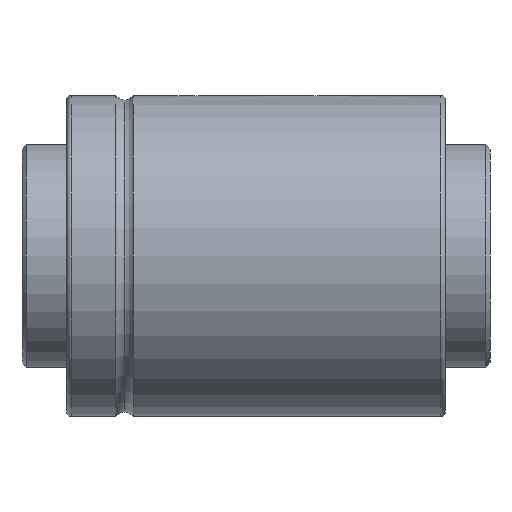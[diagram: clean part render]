
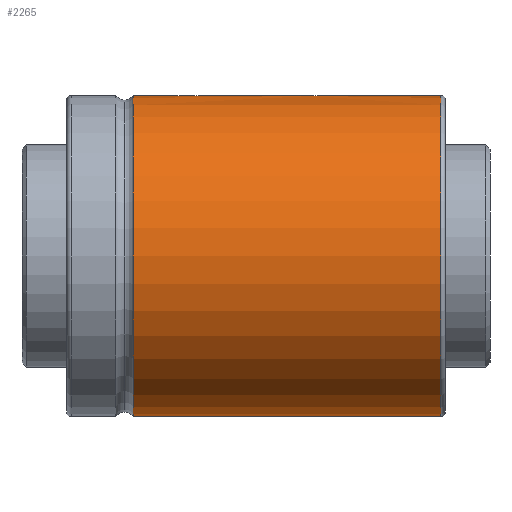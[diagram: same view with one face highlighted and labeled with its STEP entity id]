
A CAD part, front view. The second image highlights one B-rep face of the part: STEP entity #2265.
In plain terms, the highlighted cylindrical face has radius 36 mm (diameter 72 mm), a partial arc.
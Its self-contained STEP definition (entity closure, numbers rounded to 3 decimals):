
#18 = CARTESIAN_POINT ( 'NONE',  ( 56.884, -1.652, 35.962 ) ) ;
#75 = ORIENTED_EDGE ( 'NONE', *, *, #352, .T. ) ;
#110 = EDGE_CURVE ( 'NONE', #2802, #3132, #1517, .T. ) ;
#119 = CARTESIAN_POINT ( 'NONE',  ( 85., -2.5, 35.913 ) ) ;
#153 = EDGE_CURVE ( 'NONE', #3159, #1650, #928, .T. ) ;
#209 = CARTESIAN_POINT ( 'NONE',  ( 84., 0., -36. ) ) ;
#212 = CARTESIAN_POINT ( 'NONE',  ( 28.892, -2.247, 35.93 ) ) ;
#224 = CARTESIAN_POINT ( 'NONE',  ( 27.5, 0., 36. ) ) ;
#268 = CARTESIAN_POINT ( 'NONE',  ( 56.653, -1.882, 35.951 ) ) ;
#279 = CARTESIAN_POINT ( 'NONE',  ( 57.17, -1.252, 35.978 ) ) ;
#302 = CARTESIAN_POINT ( 'NONE',  ( 57.5, -0.165, 36. ) ) ;
#352 = EDGE_CURVE ( 'NONE', #1650, #1240, #546, .T. ) ;
#359 = VECTOR ( 'NONE', #3170, 1000. ) ;
#383 = DIRECTION ( 'NONE',  ( 0., 0., -1. ) ) ;
#471 = FACE_OUTER_BOUND ( 'NONE', #1624, .T. ) ;
#473 = CARTESIAN_POINT ( 'NONE',  ( 30., -2.5, 35.913 ) ) ;
#546 = LINE ( 'NONE', #2817, #2255 ) ;
#566 = CARTESIAN_POINT ( 'NONE',  ( 15., 0., 36. ) ) ;
#568 = DIRECTION ( 'NONE',  ( -1., 0., 0. ) ) ;
#617 = ORIENTED_EDGE ( 'NONE', *, *, #110, .T. ) ;
#670 = CYLINDRICAL_SURFACE ( 'NONE', #2715, 36. ) ;
#684 = CARTESIAN_POINT ( 'NONE',  ( 84., 0., 0. ) ) ;
#722 = CARTESIAN_POINT ( 'NONE',  ( 30., -2.5, 35.913 ) ) ;
#747 = CARTESIAN_POINT ( 'NONE',  ( 29.194, -2.372, 35.922 ) ) ;
#756 = CARTESIAN_POINT ( 'NONE',  ( 27.5, -0.33, 36. ) ) ;
#817 = DIRECTION ( 'NONE',  ( -1., 0., 0. ) ) ;
#829 = CARTESIAN_POINT ( 'NONE',  ( 57.247, -1.108, 35.983 ) ) ;
#927 = DIRECTION ( 'NONE',  ( -1., 0., 0. ) ) ;
#928 = CIRCLE ( 'NONE', #3174, 36. ) ;
#1018 = CARTESIAN_POINT ( 'NONE',  ( 28.118, -1.653, 35.962 ) ) ;
#1040 = CARTESIAN_POINT ( 'NONE',  ( 27.754, -1.109, 35.983 ) ) ;
#1048 = CARTESIAN_POINT ( 'NONE',  ( 85., 0., 36. ) ) ;
#1075 = CARTESIAN_POINT ( 'NONE',  ( 57.5, 0., 36. ) ) ;
#1164 = DIRECTION ( 'NONE',  ( 1., 0., 0. ) ) ;
#1240 = VERTEX_POINT ( 'NONE', #2105 ) ;
#1259 = DIRECTION ( 'NONE',  ( 0., 0., 1. ) ) ;
#1277 = DIRECTION ( 'NONE',  ( -1., 0., 0. ) ) ;
#1281 = CARTESIAN_POINT ( 'NONE',  ( 28.014, -1.528, 35.968 ) ) ;
#1282 = DIRECTION ( 'NONE',  ( 0., 0., 1. ) ) ;
#1292 = CARTESIAN_POINT ( 'NONE',  ( 28.477, -1.989, 35.945 ) ) ;
#1303 = EDGE_CURVE ( 'NONE', #3159, #2144, #2598, .T. ) ;
#1317 = CARTESIAN_POINT ( 'NONE',  ( 56.255, -2.169, 35.935 ) ) ;
#1319 = VECTOR ( 'NONE', #817, 1000. ) ;
#1325 = CARTESIAN_POINT ( 'NONE',  ( 55.33, -2.5, 35.913 ) ) ;
#1384 = B_SPLINE_CURVE_WITH_KNOTS ( 'NONE', 3,
 ( #1075, #302, #2363, #1859, #1566, #829, #279, #2608, #18, #268, #2332, #1317, #2086, #2342, #1325, #1579 ),
 .UNSPECIFIED., .F., .F.,
 ( 4, 2, 2, 2, 2, 2, 2, 4 ),
 ( 0.004, 0.004, 0.005, 0.005, 0.006, 0.006, 0.007, 0.008 ),
 .UNSPECIFIED. ) ;
#1388 = ORIENTED_EDGE ( 'NONE', *, *, #2933, .T. ) ;
#1439 = CARTESIAN_POINT ( 'NONE',  ( 27.5, 0., 36. ) ) ;
#1510 = CIRCLE ( 'NONE', #2405, 36. ) ;
#1517 = LINE ( 'NONE', #119, #359 ) ;
#1540 = CARTESIAN_POINT ( 'NONE',  ( 27.566, -0.658, 35.995 ) ) ;
#1552 = LINE ( 'NONE', #1048, #1319 ) ;
#1566 = CARTESIAN_POINT ( 'NONE',  ( 57.372, -0.806, 35.991 ) ) ;
#1579 = CARTESIAN_POINT ( 'NONE',  ( 55., -2.5, 35.913 ) ) ;
#1596 = CARTESIAN_POINT ( 'NONE',  ( 15., 0., -36. ) ) ;
#1624 = EDGE_LOOP ( 'NONE', ( #2561, #3250, #75, #1388, #617, #1909, #2138, #1812 ) ) ;
#1650 = VERTEX_POINT ( 'NONE', #1798 ) ;
#1751 = VERTEX_POINT ( 'NONE', #566 ) ;
#1794 = CARTESIAN_POINT ( 'NONE',  ( 29.353, -2.42, 35.919 ) ) ;
#1798 = CARTESIAN_POINT ( 'NONE',  ( 84., 0., 36. ) ) ;
#1812 = ORIENTED_EDGE ( 'NONE', *, *, #1923, .T. ) ;
#1859 = CARTESIAN_POINT ( 'NONE',  ( 57.42, -0.647, 35.995 ) ) ;
#1909 = ORIENTED_EDGE ( 'NONE', *, *, #2807, .T. ) ;
#1923 = EDGE_CURVE ( 'NONE', #1751, #2144, #1510, .T. ) ;
#2013 = CARTESIAN_POINT ( 'NONE',  ( 85., 0., 0. ) ) ;
#2039 = CARTESIAN_POINT ( 'NONE',  ( 29.835, -2.5, 35.913 ) ) ;
#2086 = CARTESIAN_POINT ( 'NONE',  ( 56.109, -2.246, 35.93 ) ) ;
#2105 = CARTESIAN_POINT ( 'NONE',  ( 57.5, 0., 36. ) ) ;
#2138 = ORIENTED_EDGE ( 'NONE', *, *, #2913, .T. ) ;
#2144 = VERTEX_POINT ( 'NONE', #1596 ) ;
#2255 = VECTOR ( 'NONE', #1277, 1000. ) ;
#2265 = ADVANCED_FACE ( 'NONE', ( #471 ), #670, .T. ) ;
#2294 = CARTESIAN_POINT ( 'NONE',  ( 27.831, -1.255, 35.978 ) ) ;
#2332 = CARTESIAN_POINT ( 'NONE',  ( 56.528, -1.986, 35.945 ) ) ;
#2342 = CARTESIAN_POINT ( 'NONE',  ( 55.658, -2.434, 35.918 ) ) ;
#2363 = CARTESIAN_POINT ( 'NONE',  ( 57.484, -0.327, 35.999 ) ) ;
#2405 = AXIS2_PLACEMENT_3D ( 'NONE', #2676, #1164, #1282 ) ;
#2517 = DIRECTION ( 'NONE',  ( -1., 0., 0. ) ) ;
#2526 = CARTESIAN_POINT ( 'NONE',  ( 28.748, -2.17, 35.935 ) ) ;
#2561 = ORIENTED_EDGE ( 'NONE', *, *, #1303, .F. ) ;
#2598 = LINE ( 'NONE', #2885, #2716 ) ;
#2608 = CARTESIAN_POINT ( 'NONE',  ( 56.989, -1.523, 35.968 ) ) ;
#2676 = CARTESIAN_POINT ( 'NONE',  ( 15., 0., 0. ) ) ;
#2710 = B_SPLINE_CURVE_WITH_KNOTS ( 'NONE', 3,
 ( #473, #2039, #3019, #1794, #747, #212, #2526, #1292, #3056, #1018, #1281, #2294, #1040, #1540, #756, #224 ),
 .UNSPECIFIED., .F., .F.,
 ( 4, 2, 2, 2, 2, 2, 2, 4 ),
 ( -0.004, -0.003, -0.003, -0.002, -0.002, -0.001, -0.001, 0. ),
 .UNSPECIFIED. ) ;
#2715 = AXIS2_PLACEMENT_3D ( 'NONE', #2013, #2517, #1259 ) ;
#2716 = VECTOR ( 'NONE', #568, 1000. ) ;
#2802 = VERTEX_POINT ( 'NONE', #3301 ) ;
#2807 = EDGE_CURVE ( 'NONE', #3132, #3073, #2710, .T. ) ;
#2817 = CARTESIAN_POINT ( 'NONE',  ( 85., 0., 36. ) ) ;
#2885 = CARTESIAN_POINT ( 'NONE',  ( 85., 0., -36. ) ) ;
#2913 = EDGE_CURVE ( 'NONE', #3073, #1751, #1552, .T. ) ;
#2933 = EDGE_CURVE ( 'NONE', #1240, #2802, #1384, .T. ) ;
#3019 = CARTESIAN_POINT ( 'NONE',  ( 29.673, -2.484, 35.914 ) ) ;
#3056 = CARTESIAN_POINT ( 'NONE',  ( 28.348, -1.884, 35.951 ) ) ;
#3073 = VERTEX_POINT ( 'NONE', #1439 ) ;
#3132 = VERTEX_POINT ( 'NONE', #722 ) ;
#3159 = VERTEX_POINT ( 'NONE', #209 ) ;
#3170 = DIRECTION ( 'NONE',  ( -1., 0., 0. ) ) ;
#3174 = AXIS2_PLACEMENT_3D ( 'NONE', #684, #927, #383 ) ;
#3250 = ORIENTED_EDGE ( 'NONE', *, *, #153, .T. ) ;
#3301 = CARTESIAN_POINT ( 'NONE',  ( 55., -2.5, 35.913 ) ) ;
